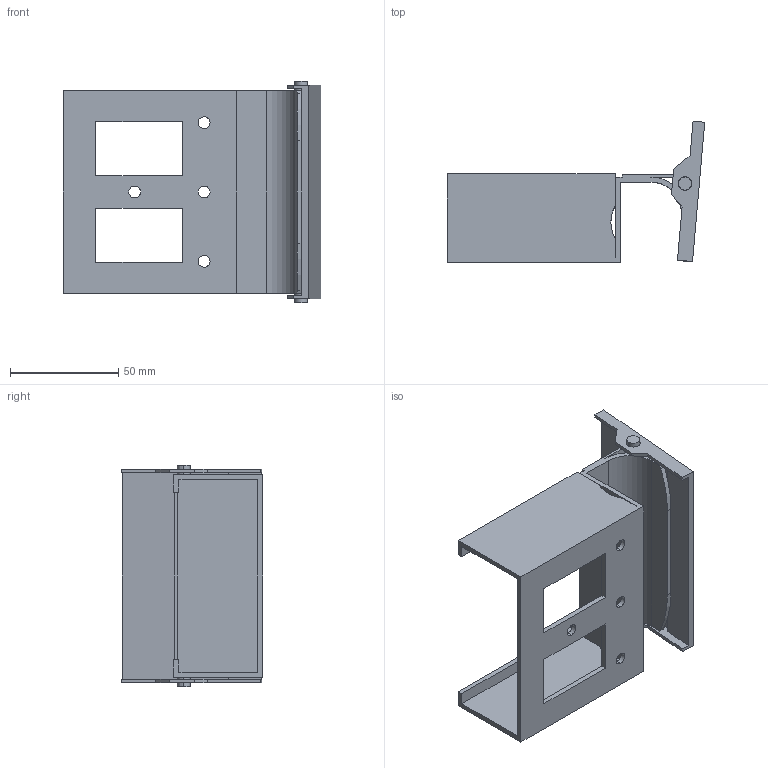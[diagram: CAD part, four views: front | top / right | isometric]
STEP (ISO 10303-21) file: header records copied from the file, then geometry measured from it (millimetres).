
FILE_DESCRIPTION (( 'STEP AP214' ), '1' );
FILE_NAME ('JB-501WST.STEP', '2024-01-17T02:54:56', ( 'catia' ), ( 'HP Inc.' ), 'SwSTEP 2.0', 'SolidWorks 2021', '' );
FILE_SCHEMA (( 'AUTOMOTIVE_DESIGN' ));
Length unit declared in the file: millimetre
Products named in the file (3): JB-501WST_2; JB-501WST_1; JB-501WST
Assembly tree (2 placements, depth 2):
  JB-501WST
    JB-501WST_1
    JB-501WST_2
Bounding box: 118.8 x 65.19 x 102.4 mm (x, y, z)
Volume: 68397.7 mm3; surface area: 62969.5 mm2
Topology: 2 solids, 2 shells, 84 faces, 234 edges, 156 vertices
Faces by surface type: plane 59, cylinder 25
Entity records: 2830 total; most frequent: CARTESIAN_POINT 479, ORIENTED_EDGE 468, DIRECTION 462, EDGE_CURVE 234, VECTOR 184, LINE 184, VERTEX_POINT 156, AXIS2_PLACEMENT_3D 139
